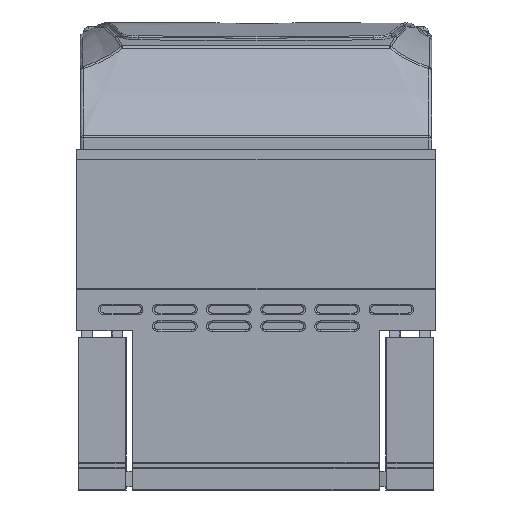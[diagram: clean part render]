
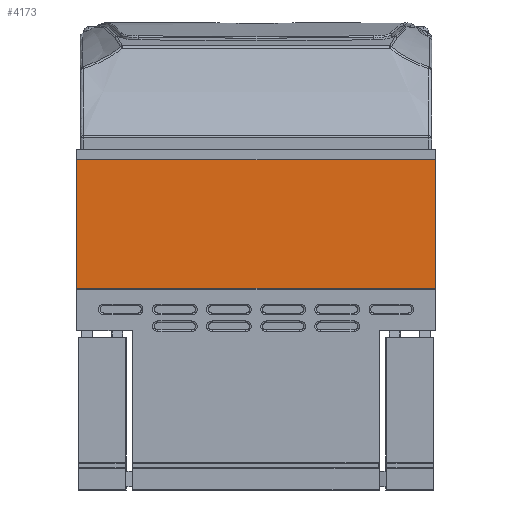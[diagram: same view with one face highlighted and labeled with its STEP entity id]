
A CAD part, left-side view. The second image highlights one B-rep face of the part: STEP entity #4173.
In plain terms, the highlighted planar face has unit normal (-1, 0, 0).
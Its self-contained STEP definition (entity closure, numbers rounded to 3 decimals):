
#2031=PLANE('',#32028);
#4173=ADVANCED_FACE('',(#5995),#2031,.F.);
#5995=FACE_OUTER_BOUND('',#7691,.T.);
#7691=EDGE_LOOP('',(#11924,#11925,#11926,#11927));
#11924=ORIENTED_EDGE('',*,*,#23879,.F.);
#11925=ORIENTED_EDGE('',*,*,#24014,.F.);
#11926=ORIENTED_EDGE('',*,*,#23801,.T.);
#11927=ORIENTED_EDGE('',*,*,#24015,.T.);
#20702=VERTEX_POINT('',#48603);
#20707=VERTEX_POINT('',#48615);
#20782=VERTEX_POINT('',#48886);
#20783=VERTEX_POINT('',#48888);
#23801=EDGE_CURVE('',#20702,#20707,#27798,.T.);
#23879=EDGE_CURVE('',#20782,#20783,#27804,.T.);
#24014=EDGE_CURVE('',#20702,#20782,#27857,.T.);
#24015=EDGE_CURVE('',#20707,#20783,#27858,.T.);
#27798=LINE('',#48616,#29625);
#27804=LINE('',#48887,#29631);
#27857=LINE('',#49290,#29684);
#27858=LINE('',#49291,#29685);
#29625=VECTOR('',#35107,1.);
#29631=VECTOR('',#35211,1.);
#29684=VECTOR('',#35446,1.);
#29685=VECTOR('',#35447,1.);
#32028=AXIS2_PLACEMENT_3D('',#49292,#35448,#35449);
#35107=DIRECTION('',(0.,0.,-1.));
#35211=DIRECTION('',(0.,0.,-1.));
#35446=DIRECTION('',(0.,-1.,0.));
#35447=DIRECTION('',(0.,-1.,0.));
#35448=DIRECTION('',(1.,0.,0.));
#35449=DIRECTION('',(0.,1.,0.));
#48603=CARTESIAN_POINT('',(-91.5,53.,68.7));
#48615=CARTESIAN_POINT('',(-91.5,53.,30.7));
#48616=CARTESIAN_POINT('',(-91.5,53.,27.2));
#48886=CARTESIAN_POINT('',(-91.5,-53.,68.7));
#48887=CARTESIAN_POINT('',(-91.5,-53.,27.));
#48888=CARTESIAN_POINT('',(-91.5,-53.,30.7));
#49290=CARTESIAN_POINT('',(-91.5,46.,68.7));
#49291=CARTESIAN_POINT('',(-91.5,50.,30.7));
#49292=CARTESIAN_POINT('',(-91.5,50.,27.2));
